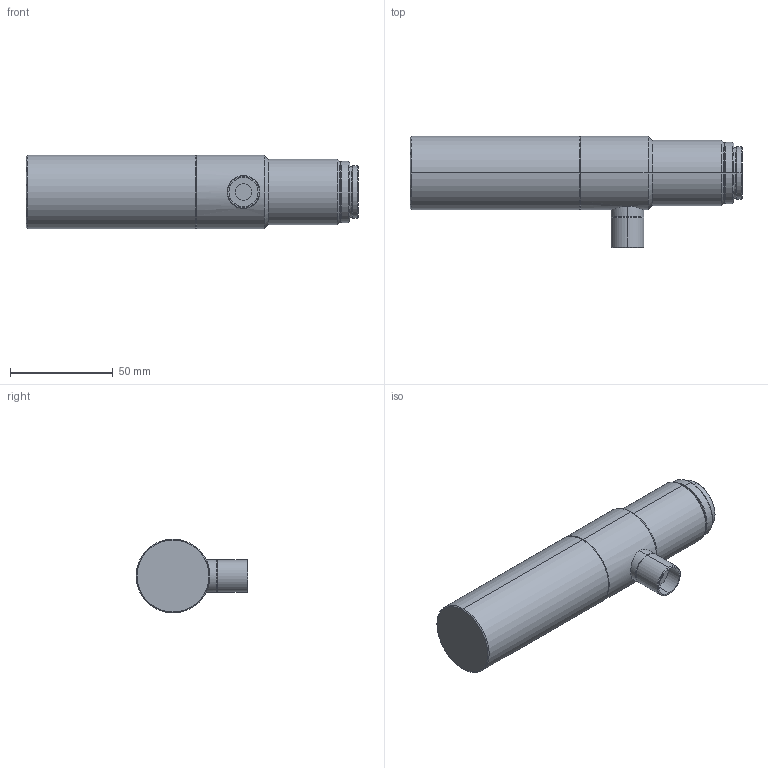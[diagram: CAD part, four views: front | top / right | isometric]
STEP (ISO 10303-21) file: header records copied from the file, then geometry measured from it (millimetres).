
FILE_DESCRIPTION (( 'STEP AP214' ), '1' );
FILE_NAME ('VS-TC07-340CO.STEP', '2019-02-20T23:41:14', ( '' ), ( '' ), 'SwSTEP 2.0', 'SolidWorks 2018', '' );
FILE_SCHEMA (( 'AUTOMOTIVE_DESIGN' ));
Length unit declared in the file: millimetre
Products named in the file (1): VS-TC07-340CO
Bounding box: 161.8 x 54.5 x 36 mm (x, y, z)
Volume: 155493.6 mm3; surface area: 21114.7 mm2
Topology: 1 solids, 1 shells, 54 faces, 106 edges, 60 vertices
Faces by surface type: cone 24, cylinder 22, plane 8
Entity records: 1498 total; most frequent: CARTESIAN_POINT 317, DIRECTION 272, ORIENTED_EDGE 212, AXIS2_PLACEMENT_3D 113, EDGE_CURVE 106, VERTEX_POINT 60, EDGE_LOOP 60, CIRCLE 58
